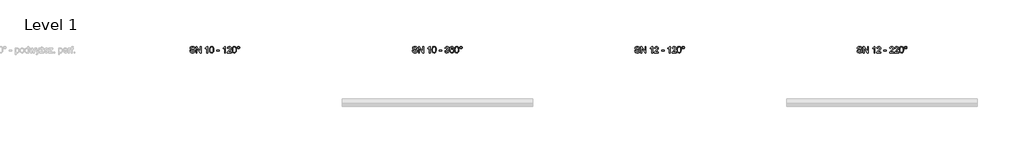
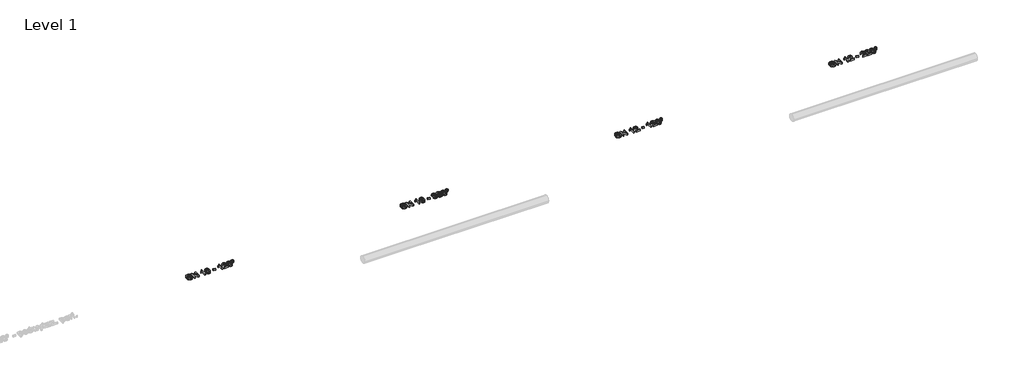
# One storey, part 9 of 10: 4 proxies.
"""IFC4 building model written with IfcOpenShell, lengths in millimetres."""

import ifcopenshell
import ifcopenshell.guid

model = None  # the IFC model being written
_history = None  # IfcOwnerHistory: only IFC2X3 demands one
_inside = {}  # id of a spatial element -> (the spatial element, [elements in it])
_under = {}  # id of a project, library or spatial element -> (it, [spatial elements below it])
_declared = {}  # id of a project -> (the project, [libraries it declares])
_typed = {}  # id of a type object -> (the type object, [elements of that type])
_made_of = {}  # id of a material, layer set ... -> (it, [elements and type objects made of it])


def new_model(schema):
    """Start an empty IFC model of exactly this schema.

    Asked for "IFC4X3", IfcOpenShell would pick the latest addendum, in which some entities
    have other attributes; the version numbers below select the first issue.
    IFC2X3 requires an IfcOwnerHistory on every rooted entity: one is made here for all.
    """
    global model, _history
    if schema == "IFC4X3":
        model = ifcopenshell.file(schema_version=(4, 3, 0, 0))
    else:
        model = ifcopenshell.file(schema=schema)
    _inside.clear()
    _under.clear()
    _declared.clear()
    _typed.clear()
    _made_of.clear()
    _history = None
    if model.schema == "IFC2X3":
        org = make("IfcOrganization", Name="unknown")
        user = make(
            "IfcPersonAndOrganization",
            ThePerson=make("IfcPerson", FamilyName="unknown"),
            TheOrganization=org,
        )
        app = make(
            "IfcApplication",
            ApplicationDeveloper=org,
            Version="unknown",
            ApplicationFullName="unknown",
            ApplicationIdentifier="unknown",
        )
        _history = make(
            "IfcOwnerHistory",
            OwningUser=user,
            OwningApplication=app,
            ChangeAction="ADDED",
            CreationDate=0,
        )
    return model


def make(cls, **values):
    """One entity of the class cls with the attributes given. An attribute that is None is left unset."""
    return model.create_entity(
        cls, **{name: value for name, value in values.items() if value is not None}
    )


def rooted(cls, **values):
    """An entity with a GlobalId (a new one), such as an element, a storey or a relation."""
    return make(cls, GlobalId=ifcopenshell.guid.new(), OwnerHistory=_history, **values)


def si_unit(unit_type, name, prefix=None):
    """IfcSIUnit, for example si_unit("LENGTHUNIT", "METRE", prefix="MILLI")."""
    return make("IfcSIUnit", UnitType=unit_type, Prefix=prefix, Name=name)


def assignment(units):
    """IfcUnitAssignment: the units of a project."""
    return None if units is None else make("IfcUnitAssignment", Units=units)


def point(xyz):
    """IfcCartesianPoint."""
    return None if xyz is None else make("IfcCartesianPoint", Coordinates=xyz)


def direction(xyz):
    """IfcDirection."""
    return None if xyz is None else make("IfcDirection", DirectionRatios=xyz)


def frame(location, z_axis=None, x_axis=None):
    """IfcAxis2Placement3D, a coordinate frame: its origin and axes. An axis left out is left unset."""
    return make(
        "IfcAxis2Placement3D",
        Location=point(location),
        Axis=direction(z_axis),
        RefDirection=direction(x_axis),
    )


def origin():
    """The frame at (0, 0, 0) with its axes left unset."""
    return frame((0.0, 0.0, 0.0))


def origin_with_axes():
    """The frame at (0, 0, 0) with the z axis (0, 0, 1) and the x axis (1, 0, 0) written out."""
    return frame((0.0, 0.0, 0.0), z_axis=(0.0, 0.0, 1.0), x_axis=(1.0, 0.0, 0.0))


def place(relative_to, where):
    """IfcLocalPlacement: puts the frame where relative to a parent placement (None: the world)."""
    return make(
        "IfcLocalPlacement", PlacementRelTo=relative_to, RelativePlacement=where
    )


def context(
    kind, dimensions, precision=None, world=None, true_north=None, identifier=None
):
    """IfcGeometricRepresentationContext, for example the 3D "Model" context."""
    return make(
        "IfcGeometricRepresentationContext",
        ContextIdentifier=identifier,
        ContextType=kind,
        CoordinateSpaceDimension=dimensions,
        Precision=precision,
        WorldCoordinateSystem=world,
        TrueNorth=true_north,
    )


def project(units=None, contexts=None):
    """IfcProject with its units and contexts."""
    return rooted(
        "IfcProject",
        Name="project",
        RepresentationContexts=contexts,
        UnitsInContext=assignment(units),
    )


def spatial(cls, under=None, at=None, **own):
    """A site, building, storey or space (cls), placed at a placement, below another one or the project."""
    s = rooted(cls, ObjectPlacement=at, **own)
    if under is not None:
        _under.setdefault(under.id(), (under, []))[1].append(s)
    return s


def polyline(points):
    """IfcPolyline through the points."""
    return make("IfcPolyline", Points=[point(p) for p in points])


def outline(outer, holes=None, kind="AREA"):
    """IfcArbitraryClosedProfileDef: a profile drawn as a closed curve; with holes, ...WithVoids."""
    if holes is None:
        return make("IfcArbitraryClosedProfileDef", ProfileType=kind, OuterCurve=outer)
    return make(
        "IfcArbitraryProfileDefWithVoids",
        ProfileType=kind,
        OuterCurve=outer,
        InnerCurves=holes,
    )


def extrude(swept, where, along, depth):
    """IfcExtrudedAreaSolid: the profile swept, set in the frame where, extruded along a direction by depth."""
    return make(
        "IfcExtrudedAreaSolid",
        SweptArea=swept,
        Position=where,
        ExtrudedDirection=direction(along),
        Depth=depth,
    )


def shape(context_of_items, identifier, shape_type, items):
    """IfcShapeRepresentation: the items that make up one representation, for example the "Body"."""
    return make(
        "IfcShapeRepresentation",
        ContextOfItems=context_of_items,
        RepresentationIdentifier=identifier,
        RepresentationType=shape_type,
        Items=items,
    )


def made_of(thing, what):
    """Note that an element or type object is made of a material, layer set ...; save() writes the relation."""
    if what is not None:
        _made_of.setdefault(what.id(), (what, []))[1].append(thing)
    return thing


def element(
    cls,
    number,
    at=None,
    inside=None,
    cuts=None,
    type_object=None,
    material=None,
    context=None,
    identifier="Body",
    shape_type=None,
    held_by="IfcProductDefinitionShape",
    body=None,
    shapes=None,
    **own,
):
    """One element of the class cls, such as IfcWall. Its Tag is "e" and its number.

    at: its placement. inside: the storey or other place that contains it. cuts: it is an
    opening in that element (IfcRelVoidsElement). A single representation is given by context,
    identifier, shape_type and body (its items); several are given by shapes. held_by: the class
    of the entity that holds the representations. save() writes the other relations.
    """
    e = rooted(cls, Tag="e%d" % number, ObjectPlacement=at, **own)
    if body is not None:
        shapes = [shape(context, identifier, shape_type, body)]
    if shapes is not None:
        e.Representation = make(held_by, Representations=shapes)
    if inside is not None:
        _inside.setdefault(inside.id(), (inside, []))[1].append(e)
    if cuts is not None:
        rooted(
            "IfcRelVoidsElement", RelatingBuildingElement=cuts, RelatedOpeningElement=e
        )
    if type_object is not None:
        _typed.setdefault(type_object.id(), (type_object, []))[1].append(e)
    return made_of(e, material)


def aggregate(whole, parts):
    """IfcRelAggregates: a whole, such as a stair, and the parts it consists of."""
    return rooted("IfcRelAggregates", RelatingObject=whole, RelatedObjects=parts)


def save(model, path):
    """Write the relations noted so far, then the file.

    IfcRelAggregates (storeys below a building ...), IfcRelContainedInSpatialStructure (elements
    in a storey), IfcRelDefinesByType, IfcRelAssociatesMaterial and IfcRelDeclares: one each for
    every whole, place, type object, material and project.
    """
    for whole, parts in _under.values():
        aggregate(whole, parts)
    for where, things in _inside.values():
        rooted(
            "IfcRelContainedInSpatialStructure",
            RelatedElements=things,
            RelatingStructure=where,
        )
    for kind, things in _typed.values():
        rooted("IfcRelDefinesByType", RelatedObjects=things, RelatingType=kind)
    for what, things in _made_of.values():
        rooted("IfcRelAssociatesMaterial", RelatedObjects=things, RelatingMaterial=what)
    for by, libraries in _declared.values():
        rooted("IfcRelDeclares", RelatingContext=by, RelatedDefinitions=libraries)
    model.write(path)


model = new_model("IFC4")

# Units and contexts
model_context = context("Model", 3, world=origin())
ifc_project = project(units=[si_unit("LENGTHUNIT", "METRE", prefix="MILLI")], contexts=[model_context])

# Site, building, storey
site = spatial("IfcSite", under=ifc_project)
building = spatial("IfcBuilding", under=site)
storey = spatial("IfcBuildingStorey", under=building, Name="Level 1", Elevation=0.0)

# Proxies
placement = place(None, origin())
element("IfcBuildingElementProxy", 1, Name="200mm Arial", ObjectType="200mm Arial", at=placement, inside=storey, context=model_context, shape_type="SweptSolid", body=[
    extrude(outline(polyline([(34180.9483219, 2231.0128426), (34206.0623994, 2231.0128426), (34214.1558033, 2205.8742396), (34222.2859954, 2196.983758), (34233.9233292, 2189.9817374), (34248.1480997, 2185.4383947), (34264.0406019, 2183.9239472), (34290.2828509, 2188.5102094), (34307.2299481, 2201.1162991), (34312.797229, 2217.9652945), (34308.6278997, 2233.6370675), (34302.2758039, 2239.8358791), (34291.5581751, 2245.0414093), (34254.9907048, 2254.6308667), (34215.6273313, 2267.0162272), (34203.1254748, 2275.4652503), (34194.2656501, 2285.7046325), (34188.9865435, 2297.5136446), (34187.2268413, 2310.6715573), (34189.4034764, 2325.3807057), (34195.9333818, 2339.0965728), (34206.6448793, 2350.7216438), (34221.3662904, 2359.1584042), (34239.0368889, 2364.2903581), (34258.5959483, 2366.0010093), (34279.7859513, 2364.2106503), (34298.3272038, 2358.8395732), (34313.5575184, 2349.9981425), (34324.8147075, 2337.796723), (34331.9393554, 2322.9956041), (34334.7720468, 2306.3550752), (34309.6579693, 2306.3550752), (34305.0471816, 2321.3401351), (34295.4331988, 2332.1558658), (34280.4113507, 2338.7041653), (34259.576967, 2340.8869318), (34238.252074, 2338.7286908), (34223.6226333, 2332.2539676), (34215.1613474, 2322.725824), (34212.3409188, 2311.4073212), (34214.3397443, 2301.7565502), (34220.3362208, 2293.9942401), (34234.5119404, 2287.0535332), (34261.3428006, 2279.9656734), (34305.7829456, 2267.3595837), (34320.0996866, 2258.2483729), (34330.0876827, 2247.0034466), (34335.9554006, 2233.7474321), (34337.9113065, 2218.6029566), (34335.661095, 2203.121256), (34328.9104604, 2188.5592603), (34317.9353142, 2176.026747), (34303.0115679, 2166.6334934), (34285.0650579, 2160.7657756), (34265.0216205, 2158.8098696), (34240.4164464, 2160.9190598), (34220.1645426, 2167.2466301), (34204.0329171, 2177.8171061), (34191.788578, 2192.6550132), (34183.9281661, 2210.7302819), (34180.9483219, 2231.0128426)])), origin_with_axes(), (0.0, 0.0, 1.0), 50.0),
    extrude(outline(polyline([(34375.5824228, 2161.9491293), (34375.5824228, 2362.8617496), (34402.4623339, 2362.8617496), (34507.4313299, 2203.6914731), (34507.4313299, 2362.8617496), (34532.5454074, 2362.8617496), (34532.5454074, 2161.9491293), (34505.6654963, 2161.9491293), (34400.6965003, 2321.1684569), (34400.6965003, 2161.9491293), (34375.5824228, 2161.9491293)])), origin_with_axes(), (0.0, 0.0, 1.0), 50.0),
    extrude(outline(polyline([(34739.7365471, 2161.9491293), (34714.6224696, 2161.9491293), (34714.6224696, 2318.5197065), (34690.8327672, 2301.5726092), (34664.3943145, 2288.8929431), (34664.3943145, 2312.6335946), (34701.2070395, 2336.1289913), (34714.6776519, 2349.7038369), (34723.5497393, 2362.8617496), (34739.7365471, 2362.8617496), (34739.7365471, 2161.9491293)])), origin_with_axes(), (0.0, 0.0, 1.0), 50.0),
    extrude(outline(polyline([(34799.3824813, 2260.7867587), (34801.2280226, 2292.9457765), (34806.7646466, 2318.5932829), (34815.937171, 2338.1216855), (34828.6904135, 2351.9233917), (34845.1163446, 2360.1271601), (34865.3069348, 2362.8617496), (34880.7825041, 2361.2430689), (34894.6393925, 2356.3870265), (34906.2276754, 2348.483695), (34914.8974277, 2337.7231466), (34926.6696516, 2307.9982814), (34931.2313883, 2260.7867587), (34929.4042411, 2228.811682), (34923.9227994, 2203.2254892), (34914.8054572, 2183.6786925), (34902.0706088, 2169.821804), (34885.6078896, 2161.5628532), (34865.3069348, 2158.8098696), (34839.2118386, 2163.5923356), (34819.3952618, 2177.9397334), (34810.6396703, 2193.0688805), (34804.3856764, 2211.919767), (34799.3824813, 2260.7867587)]), holes=[polyline([(34824.4965588, 2260.8358096), (34827.4396148, 2221.3314147), (34836.2687826, 2198.4675487), (34849.4144326, 2187.5598476), (34865.3069348, 2183.9239472), (34881.199437, 2187.5721103), (34894.3450869, 2198.5165997), (34903.1742548, 2221.3927284), (34906.1173108, 2260.8358096), (34903.2723567, 2299.4511564), (34894.7374944, 2322.492832), (34881.6163699, 2333.9339621), (34865.0126292, 2337.7476721), (34849.2918053, 2334.3876832), (34836.6611901, 2324.3077165), (34827.5377166, 2299.8313011), (34824.4965588, 2260.8358096)])]), origin_with_axes(), (0.0, 0.0, 1.0), 50.0),
    extrude(outline(polyline([(35025.4091791, 2221.5950635), (35025.4091791, 2246.709141), (35103.8906714, 2246.709141), (35103.8906714, 2221.5950635), (35025.4091791, 2221.5950635)])), origin_with_axes(), (0.0, 0.0, 1.0), 50.0),
    extrude(outline(polyline([(35298.5247723, 2161.9491293), (35273.4106948, 2161.9491293), (35273.4106948, 2318.5197065), (35249.6209924, 2301.5726092), (35223.1825397, 2288.8929431), (35223.1825397, 2312.6335946), (35259.9952647, 2336.1289913), (35273.4658771, 2349.7038369), (35282.3379645, 2362.8617496), (35298.5247723, 2362.8617496), (35298.5247723, 2161.9491293)])), origin_with_axes(), (0.0, 0.0, 1.0), 50.0),
    extrude(outline(polyline([(35486.8803538, 2187.0632069), (35486.8803538, 2161.9491293), (35355.0314468, 2161.9491293), (35357.7292481, 2179.2641086), (35372.9840881, 2205.9232905), (35404.425736, 2235.0350191), (35447.7867605, 2276.8754646), (35455.9169526, 2291.2964388), (35458.6270166, 2305.3250056), (35456.0702367, 2317.9004385), (35448.3998971, 2328.3544185), (35436.6092792, 2335.3993587), (35421.6916643, 2337.7476721), (35406.0260227, 2335.454541), (35393.85526, 2328.5751477), (35386.0009794, 2317.6490524), (35383.284784, 2303.2158155), (35358.1707065, 2306.3550752), (35364.2591535, 2330.6475496), (35377.4231975, 2348.3917245), (35396.9761256, 2359.2442434), (35422.2312246, 2362.8617496), (35447.6702645, 2358.8395732), (35467.1864044, 2346.7730437), (35479.6024217, 2328.746826), (35483.7410941, 2306.8455845), (35479.2774593, 2283.0313567), (35464.4395521, 2258.4077885), (35428.460693, 2223.9985592), (35399.5696937, 2199.8409748), (35388.2389282, 2187.0632069), (35486.8803538, 2187.0632069)])), origin_with_axes(), (0.0, 0.0, 1.0), 50.0),
    extrude(outline(polyline([(35511.9944314, 2260.7867587), (35513.8399727, 2292.9457765), (35519.3765967, 2318.5932829), (35528.5491212, 2338.1216855), (35541.3023637, 2351.9233917), (35557.7282947, 2360.1271601), (35577.9188849, 2362.8617496), (35593.3944542, 2361.2430689), (35607.2513427, 2356.3870265), (35618.8396255, 2348.483695), (35627.5093779, 2337.7231466), (35639.2816017, 2307.9982814), (35643.8433384, 2260.7867587), (35642.0161912, 2228.811682), (35636.5347495, 2203.2254892), (35627.4174074, 2183.6786925), (35614.682559, 2169.821804), (35598.2198397, 2161.5628532), (35577.9188849, 2158.8098696), (35551.8237887, 2163.5923356), (35532.0072119, 2177.9397334), (35523.2516204, 2193.0688805), (35516.9976265, 2211.919767), (35511.9944314, 2260.7867587)]), holes=[polyline([(35537.1085089, 2260.8358096), (35540.0515649, 2221.3314147), (35548.8807328, 2198.4675487), (35562.0263827, 2187.5598476), (35577.9188849, 2183.9239472), (35593.8113871, 2187.5721103), (35606.9570371, 2198.5165997), (35615.7862049, 2221.3927284), (35618.7292609, 2260.8358096), (35615.8843068, 2299.4511564), (35607.3494445, 2322.492832), (35594.22832, 2333.9339621), (35577.6245793, 2337.7476721), (35561.9037554, 2334.3876832), (35549.2731402, 2324.3077165), (35540.1496667, 2299.8313011), (35537.1085089, 2260.8358096)])]), origin_with_axes(), (0.0, 0.0, 1.0), 50.0),
    extrude(outline(polyline([(35672.0966757, 2328.378944), (35674.861922, 2342.8612318), (35683.157661, 2355.0136004), (35695.3284237, 2363.2541571), (35709.7187411, 2366.0010093), (35724.2746053, 2363.2541571), (35736.4514994, 2355.0136004), (35744.6920561, 2342.8612318), (35747.4389083, 2328.378944), (35744.673662, 2313.9150502), (35736.377923, 2301.719762), (35724.1826348, 2293.4240231), (35709.7187411, 2290.6587767), (35695.3284237, 2293.405629), (35683.157661, 2301.6461856), (35674.861922, 2313.8230797), (35672.0966757, 2328.378944)]), holes=[polyline([(35687.7929741, 2328.329893), (35689.4055236, 2319.8808699), (35694.2431718, 2312.7807474), (35701.3616884, 2307.9614932), (35709.8168429, 2306.3550752), (35718.198421, 2307.9614932), (35725.2924122, 2312.7807474), (35730.1300604, 2319.8808699), (35731.7426098, 2328.329893), (35730.1300604, 2336.7789162), (35725.2924122, 2343.8790387), (35718.198421, 2348.6982928), (35709.8168429, 2350.3047109), (35701.3616884, 2348.6982928), (35694.2431718, 2343.8790387), (35689.4055236, 2336.7789162), (35687.7929741, 2328.329893)])]), origin_with_axes(), (0.0, 0.0, 1.0), 50.0),
])
element("IfcBuildingElementProxy", 2, Name="200mm Arial", ObjectType="200mm Arial", at=placement, inside=storey, context=model_context, shape_type="SweptSolid", body=[
    extrude(outline(polyline([(41180.9483219, 2231.0128426), (41206.0623994, 2231.0128426), (41214.1558033, 2205.8742396), (41222.2859954, 2196.983758), (41233.9233292, 2189.9817374), (41248.1480997, 2185.4383947), (41264.0406019, 2183.9239472), (41290.2828509, 2188.5102094), (41307.2299481, 2201.1162991), (41312.797229, 2217.9652945), (41308.6278997, 2233.6370675), (41302.2758039, 2239.8358791), (41291.5581751, 2245.0414093), (41254.9907048, 2254.6308667), (41215.6273313, 2267.0162272), (41203.1254748, 2275.4652503), (41194.2656501, 2285.7046325), (41188.9865435, 2297.5136446), (41187.2268413, 2310.6715573), (41189.4034764, 2325.3807057), (41195.9333818, 2339.0965728), (41206.6448793, 2350.7216438), (41221.3662904, 2359.1584042), (41239.0368889, 2364.2903581), (41258.5959483, 2366.0010093), (41279.7859513, 2364.2106503), (41298.3272038, 2358.8395732), (41313.5575184, 2349.9981425), (41324.8147075, 2337.796723), (41331.9393554, 2322.9956041), (41334.7720468, 2306.3550752), (41309.6579693, 2306.3550752), (41305.0471816, 2321.3401351), (41295.4331988, 2332.1558658), (41280.4113507, 2338.7041653), (41259.576967, 2340.8869318), (41238.252074, 2338.7286908), (41223.6226333, 2332.2539676), (41215.1613474, 2322.725824), (41212.3409188, 2311.4073212), (41214.3397443, 2301.7565502), (41220.3362208, 2293.9942401), (41234.5119404, 2287.0535332), (41261.3428006, 2279.9656734), (41305.7829456, 2267.3595837), (41320.0996866, 2258.2483729), (41330.0876827, 2247.0034466), (41335.9554006, 2233.7474321), (41337.9113065, 2218.6029566), (41335.661095, 2203.121256), (41328.9104604, 2188.5592603), (41317.9353142, 2176.026747), (41303.0115679, 2166.6334934), (41285.0650579, 2160.7657756), (41265.0216205, 2158.8098696), (41240.4164464, 2160.9190598), (41220.1645426, 2167.2466301), (41204.0329171, 2177.8171061), (41191.788578, 2192.6550132), (41183.9281661, 2210.7302819), (41180.9483219, 2231.0128426)])), origin_with_axes(), (0.0, 0.0, 1.0), 50.0),
    extrude(outline(polyline([(41375.5824228, 2161.9491293), (41375.5824228, 2362.8617496), (41402.4623339, 2362.8617496), (41507.4313299, 2203.6914731), (41507.4313299, 2362.8617496), (41532.5454074, 2362.8617496), (41532.5454074, 2161.9491293), (41505.6654963, 2161.9491293), (41400.6965003, 2321.1684569), (41400.6965003, 2161.9491293), (41375.5824228, 2161.9491293)])), origin_with_axes(), (0.0, 0.0, 1.0), 50.0),
    extrude(outline(polyline([(41739.7365471, 2161.9491293), (41714.6224696, 2161.9491293), (41714.6224696, 2318.5197065), (41690.8327672, 2301.5726092), (41664.3943145, 2288.8929431), (41664.3943145, 2312.6335946), (41701.2070395, 2336.1289913), (41714.6776519, 2349.7038369), (41723.5497393, 2362.8617496), (41739.7365471, 2362.8617496), (41739.7365471, 2161.9491293)])), origin_with_axes(), (0.0, 0.0, 1.0), 50.0),
    extrude(outline(polyline([(41799.3824813, 2260.7867587), (41801.2280226, 2292.9457765), (41806.7646466, 2318.5932829), (41815.937171, 2338.1216855), (41828.6904135, 2351.9233917), (41845.1163446, 2360.1271601), (41865.3069348, 2362.8617496), (41880.7825041, 2361.2430689), (41894.6393925, 2356.3870265), (41906.2276754, 2348.483695), (41914.8974277, 2337.7231466), (41926.6696516, 2307.9982814), (41931.2313883, 2260.7867587), (41929.4042411, 2228.811682), (41923.9227994, 2203.2254892), (41914.8054572, 2183.6786925), (41902.0706088, 2169.821804), (41885.6078896, 2161.5628532), (41865.3069348, 2158.8098696), (41839.2118386, 2163.5923356), (41819.3952618, 2177.9397334), (41810.6396703, 2193.0688805), (41804.3856764, 2211.919767), (41799.3824813, 2260.7867587)]), holes=[polyline([(41824.4965588, 2260.8358096), (41827.4396148, 2221.3314147), (41836.2687826, 2198.4675487), (41849.4144326, 2187.5598476), (41865.3069348, 2183.9239472), (41881.199437, 2187.5721103), (41894.3450869, 2198.5165997), (41903.1742548, 2221.3927284), (41906.1173108, 2260.8358096), (41903.2723567, 2299.4511564), (41894.7374944, 2322.492832), (41881.6163699, 2333.9339621), (41865.0126292, 2337.7476721), (41849.2918053, 2334.3876832), (41836.6611901, 2324.3077165), (41827.5377166, 2299.8313011), (41824.4965588, 2260.8358096)])]), origin_with_axes(), (0.0, 0.0, 1.0), 50.0),
    extrude(outline(polyline([(42025.4091791, 2221.5950635), (42025.4091791, 2246.709141), (42103.8906714, 2246.709141), (42103.8906714, 2221.5950635), (42025.4091791, 2221.5950635)])), origin_with_axes(), (0.0, 0.0, 1.0), 50.0),
    extrude(outline(polyline([(42204.3469815, 2215.3165441), (42229.4610591, 2218.4558038), (42235.0835222, 2202.6736662), (42243.3179476, 2192.0173511), (42254.5690053, 2185.9472982), (42269.2413655, 2183.9239472), (42286.4582429, 2186.7075876), (42299.7510456, 2195.0585089), (42308.2491197, 2207.5174458), (42311.0818111, 2222.6251331), (42308.2736452, 2236.9663995), (42299.8491475, 2248.5976019), (42287.095905, 2256.3047297), (42271.3015047, 2258.8737723), (42253.6922198, 2256.1269201), (42256.488123, 2281.2409976), (42260.5102995, 2280.946692), (42275.5566731, 2282.7493138), (42289.0088914, 2288.1571792), (42298.5002468, 2297.3051781), (42301.664032, 2310.3282007), (42299.3709009, 2321.1745882), (42292.4915076, 2329.9730993), (42281.994608, 2335.8040289), (42268.848958, 2337.7476721), (42255.6787826, 2335.7856348), (42244.9121029, 2329.8995229), (42237.0516909, 2320.0893363), (42232.6003188, 2306.3550752), (42207.4862412, 2309.4943349), (42214.8806693, 2332.0455012), (42228.038582, 2348.8822338), (42246.0402743, 2359.3668707), (42267.9660412, 2362.8617496), (42283.7543102, 2361.1388356), (42298.2549922, 2355.9700936), (42310.4809372, 2347.815376), (42319.4449951, 2337.1345354), (42324.9448309, 2324.8288827), (42326.7781095, 2311.7997287), (42325.0368014, 2299.6596229), (42319.8128771, 2288.6476885), (42311.1799129, 2279.2666976), (42299.2114854, 2272.0194223), (42314.9323093, 2265.6673265), (42326.5819058, 2254.8515959), (42333.7923929, 2240.1608415), (42336.1958886, 2222.1836747), (42331.3888972, 2197.7072593), (42316.967923, 2177.2530203), (42295.2015716, 2163.4206573), (42268.3584487, 2158.8098696), (42244.078237, 2162.746207), (42224.3107111, 2174.555219), (42210.5641873, 2192.618225), (42204.3469815, 2215.3165441)])), origin_with_axes(), (0.0, 0.0, 1.0), 50.0),
    extrude(outline(polyline([(42486.8803538, 2309.4943349), (42461.7662763, 2306.3550752), (42452.2503954, 2327.2998234), (42440.8583162, 2335.1357099), (42427.0872669, 2337.7476721), (42404.425736, 2331.6653564), (42394.9895628, 2322.057505), (42387.282435, 2308.8321473), (42382.0769048, 2290.1253478), (42380.1455243, 2264.0731712), (42390.2193596, 2275.8270009), (42402.2920204, 2284.1104772), (42415.6890564, 2289.0217018), (42429.7360173, 2290.6587767), (42452.9371084, 2286.1828791), (42472.4103287, 2272.7551863), (42485.6172923, 2252.2396337), (42490.0196135, 2226.5001568), (42487.9472116, 2208.5168586), (42481.7300059, 2191.8456728), (42471.8830312, 2177.7067415), (42458.9213222, 2167.3202065), (42443.4334902, 2160.9374539), (42426.0081464, 2158.8098696), (42397.5156858, 2164.4507269), (42374.8234981, 2181.3732987), (42366.1644756, 2194.4821604), (42359.9794596, 2211.2453167), (42355.0314468, 2255.7345126), (42360.5251512, 2305.7542013), (42367.3922818, 2324.8319484), (42377.0062646, 2339.9549641), (42387.4265221, 2349.9766828), (42399.50838, 2357.1350532), (42428.6568967, 2362.8617496), (42450.6930282, 2359.3178198), (42468.3391013, 2348.6860301), (42480.6999363, 2331.8002465), (42486.8803538, 2309.4943349)]), holes=[polyline([(42380.1455243, 2226.8925642), (42385.9580598, 2205.1384756), (42401.4091036, 2189.3440752), (42424.0461091, 2183.9239472), (42440.6191929, 2186.7321131), (42453.6483469, 2195.1566108), (42462.0912387, 2208.4003626), (42464.905536, 2225.6662909), (42462.1280269, 2242.2393748), (42453.7954997, 2254.8761213), (42440.5456165, 2262.8775547), (42423.0160395, 2265.5446992), (42406.4674811, 2262.8775547), (42392.6289867, 2254.8761213), (42383.2663899, 2242.5459431), (42380.1455243, 2226.8925642)])]), origin_with_axes(), (0.0, 0.0, 1.0), 50.0),
    extrude(outline(polyline([(42511.9944314, 2260.7867587), (42513.8399727, 2292.9457765), (42519.3765967, 2318.5932829), (42528.5491212, 2338.1216855), (42541.3023637, 2351.9233917), (42557.7282947, 2360.1271601), (42577.9188849, 2362.8617496), (42593.3944542, 2361.2430689), (42607.2513427, 2356.3870265), (42618.8396255, 2348.483695), (42627.5093779, 2337.7231466), (42639.2816017, 2307.9982814), (42643.8433384, 2260.7867587), (42642.0161912, 2228.811682), (42636.5347495, 2203.2254892), (42627.4174074, 2183.6786925), (42614.682559, 2169.821804), (42598.2198397, 2161.5628532), (42577.9188849, 2158.8098696), (42551.8237887, 2163.5923356), (42532.0072119, 2177.9397334), (42523.2516204, 2193.0688805), (42516.9976265, 2211.919767), (42511.9944314, 2260.7867587)]), holes=[polyline([(42537.1085089, 2260.8358096), (42540.0515649, 2221.3314147), (42548.8807328, 2198.4675487), (42562.0263827, 2187.5598476), (42577.9188849, 2183.9239472), (42593.8113871, 2187.5721103), (42606.9570371, 2198.5165997), (42615.7862049, 2221.3927284), (42618.7292609, 2260.8358096), (42615.8843068, 2299.4511564), (42607.3494445, 2322.492832), (42594.22832, 2333.9339621), (42577.6245793, 2337.7476721), (42561.9037554, 2334.3876832), (42549.2731402, 2324.3077165), (42540.1496667, 2299.8313011), (42537.1085089, 2260.8358096)])]), origin_with_axes(), (0.0, 0.0, 1.0), 50.0),
    extrude(outline(polyline([(42672.0966757, 2328.378944), (42674.861922, 2342.8612318), (42683.157661, 2355.0136004), (42695.3284237, 2363.2541571), (42709.7187411, 2366.0010093), (42724.2746053, 2363.2541571), (42736.4514994, 2355.0136004), (42744.6920561, 2342.8612318), (42747.4389083, 2328.378944), (42744.673662, 2313.9150502), (42736.377923, 2301.719762), (42724.1826348, 2293.4240231), (42709.7187411, 2290.6587767), (42695.3284237, 2293.405629), (42683.157661, 2301.6461856), (42674.861922, 2313.8230797), (42672.0966757, 2328.378944)]), holes=[polyline([(42687.7929741, 2328.329893), (42689.4055236, 2319.8808699), (42694.2431718, 2312.7807474), (42701.3616884, 2307.9614932), (42709.8168429, 2306.3550752), (42718.198421, 2307.9614932), (42725.2924122, 2312.7807474), (42730.1300604, 2319.8808699), (42731.7426098, 2328.329893), (42730.1300604, 2336.7789162), (42725.2924122, 2343.8790387), (42718.198421, 2348.6982928), (42709.8168429, 2350.3047109), (42701.3616884, 2348.6982928), (42694.2431718, 2343.8790387), (42689.4055236, 2336.7789162), (42687.7929741, 2328.329893)])]), origin_with_axes(), (0.0, 0.0, 1.0), 50.0),
])
element("IfcBuildingElementProxy", 3, Name="200mm Arial", ObjectType="200mm Arial", at=placement, inside=storey, context=model_context, shape_type="SweptSolid", body=[
    extrude(outline(polyline([(48180.9483219, 2231.0128426), (48206.0623994, 2231.0128426), (48214.1558033, 2205.8742396), (48222.2859954, 2196.983758), (48233.9233292, 2189.9817374), (48248.1480997, 2185.4383947), (48264.0406019, 2183.9239472), (48290.2828509, 2188.5102094), (48307.2299481, 2201.1162991), (48312.797229, 2217.9652945), (48308.6278997, 2233.6370675), (48302.2758039, 2239.8358791), (48291.5581751, 2245.0414093), (48254.9907048, 2254.6308667), (48215.6273313, 2267.0162272), (48203.1254748, 2275.4652503), (48194.2656501, 2285.7046325), (48188.9865435, 2297.5136446), (48187.2268413, 2310.6715573), (48189.4034764, 2325.3807057), (48195.9333818, 2339.0965728), (48206.6448793, 2350.7216438), (48221.3662904, 2359.1584042), (48239.0368889, 2364.2903581), (48258.5959483, 2366.0010093), (48279.7859513, 2364.2106503), (48298.3272038, 2358.8395732), (48313.5575184, 2349.9981425), (48324.8147075, 2337.796723), (48331.9393554, 2322.9956041), (48334.7720468, 2306.3550752), (48309.6579693, 2306.3550752), (48305.0471816, 2321.3401351), (48295.4331988, 2332.1558658), (48280.4113507, 2338.7041653), (48259.576967, 2340.8869318), (48238.252074, 2338.7286908), (48223.6226333, 2332.2539676), (48215.1613474, 2322.725824), (48212.3409188, 2311.4073212), (48214.3397443, 2301.7565502), (48220.3362208, 2293.9942401), (48234.5119404, 2287.0535332), (48261.3428006, 2279.9656734), (48305.7829456, 2267.3595837), (48320.0996866, 2258.2483729), (48330.0876827, 2247.0034466), (48335.9554006, 2233.7474321), (48337.9113065, 2218.6029566), (48335.661095, 2203.121256), (48328.9104604, 2188.5592603), (48317.9353142, 2176.026747), (48303.0115679, 2166.6334934), (48285.0650579, 2160.7657756), (48265.0216205, 2158.8098696), (48240.4164464, 2160.9190598), (48220.1645426, 2167.2466301), (48204.0329171, 2177.8171061), (48191.788578, 2192.6550132), (48183.9281661, 2210.7302819), (48180.9483219, 2231.0128426)])), origin_with_axes(), (0.0, 0.0, 1.0), 50.0),
    extrude(outline(polyline([(48375.5824228, 2161.9491293), (48375.5824228, 2362.8617496), (48402.4623339, 2362.8617496), (48507.4313299, 2203.6914731), (48507.4313299, 2362.8617496), (48532.5454074, 2362.8617496), (48532.5454074, 2161.9491293), (48505.6654963, 2161.9491293), (48400.6965003, 2321.1684569), (48400.6965003, 2161.9491293), (48375.5824228, 2161.9491293)])), origin_with_axes(), (0.0, 0.0, 1.0), 50.0),
    extrude(outline(polyline([(48739.7365471, 2161.9491293), (48714.6224696, 2161.9491293), (48714.6224696, 2318.5197065), (48690.8327672, 2301.5726092), (48664.3943145, 2288.8929431), (48664.3943145, 2312.6335946), (48701.2070395, 2336.1289913), (48714.6776519, 2349.7038369), (48723.5497393, 2362.8617496), (48739.7365471, 2362.8617496), (48739.7365471, 2161.9491293)])), origin_with_axes(), (0.0, 0.0, 1.0), 50.0),
    extrude(outline(polyline([(48928.0921286, 2187.0632069), (48928.0921286, 2161.9491293), (48796.2432216, 2161.9491293), (48798.9410229, 2179.2641086), (48814.1958629, 2205.9232905), (48845.6375108, 2235.0350191), (48888.9985353, 2276.8754646), (48897.1287274, 2291.2964388), (48899.8387914, 2305.3250056), (48897.2820115, 2317.9004385), (48889.6116719, 2328.3544185), (48877.821054, 2335.3993587), (48862.9034391, 2337.7476721), (48847.2377975, 2335.454541), (48835.0670348, 2328.5751477), (48827.2127542, 2317.6490524), (48824.4965588, 2303.2158155), (48799.3824813, 2306.3550752), (48805.4709283, 2330.6475496), (48818.6349723, 2348.3917245), (48838.1879004, 2359.2442434), (48863.4429993, 2362.8617496), (48888.8820393, 2358.8395732), (48908.3981792, 2346.7730437), (48920.8141965, 2328.746826), (48924.9528689, 2306.8455845), (48920.4892341, 2283.0313567), (48905.6513269, 2258.4077885), (48869.6724678, 2223.9985592), (48840.7814684, 2199.8409748), (48829.450703, 2187.0632069), (48928.0921286, 2187.0632069)])), origin_with_axes(), (0.0, 0.0, 1.0), 50.0),
    extrude(outline(polyline([(49025.4091791, 2221.5950635), (49025.4091791, 2246.709141), (49103.8906714, 2246.709141), (49103.8906714, 2221.5950635), (49025.4091791, 2221.5950635)])), origin_with_axes(), (0.0, 0.0, 1.0), 50.0),
    extrude(outline(polyline([(49298.5247723, 2161.9491293), (49273.4106948, 2161.9491293), (49273.4106948, 2318.5197065), (49249.6209924, 2301.5726092), (49223.1825397, 2288.8929431), (49223.1825397, 2312.6335946), (49259.9952647, 2336.1289913), (49273.4658771, 2349.7038369), (49282.3379645, 2362.8617496), (49298.5247723, 2362.8617496), (49298.5247723, 2161.9491293)])), origin_with_axes(), (0.0, 0.0, 1.0), 50.0),
    extrude(outline(polyline([(49486.8803538, 2187.0632069), (49486.8803538, 2161.9491293), (49355.0314468, 2161.9491293), (49357.7292481, 2179.2641086), (49372.9840881, 2205.9232905), (49404.425736, 2235.0350191), (49447.7867605, 2276.8754646), (49455.9169526, 2291.2964388), (49458.6270166, 2305.3250056), (49456.0702367, 2317.9004385), (49448.3998971, 2328.3544185), (49436.6092792, 2335.3993587), (49421.6916643, 2337.7476721), (49406.0260227, 2335.454541), (49393.85526, 2328.5751477), (49386.0009794, 2317.6490524), (49383.284784, 2303.2158155), (49358.1707065, 2306.3550752), (49364.2591535, 2330.6475496), (49377.4231975, 2348.3917245), (49396.9761256, 2359.2442434), (49422.2312246, 2362.8617496), (49447.6702645, 2358.8395732), (49467.1864044, 2346.7730437), (49479.6024217, 2328.746826), (49483.7410941, 2306.8455845), (49479.2774593, 2283.0313567), (49464.4395521, 2258.4077885), (49428.460693, 2223.9985592), (49399.5696937, 2199.8409748), (49388.2389282, 2187.0632069), (49486.8803538, 2187.0632069)])), origin_with_axes(), (0.0, 0.0, 1.0), 50.0),
    extrude(outline(polyline([(49511.9944314, 2260.7867587), (49513.8399727, 2292.9457765), (49519.3765967, 2318.5932829), (49528.5491212, 2338.1216855), (49541.3023637, 2351.9233917), (49557.7282947, 2360.1271601), (49577.9188849, 2362.8617496), (49593.3944542, 2361.2430689), (49607.2513427, 2356.3870265), (49618.8396255, 2348.483695), (49627.5093779, 2337.7231466), (49639.2816017, 2307.9982814), (49643.8433384, 2260.7867587), (49642.0161912, 2228.811682), (49636.5347495, 2203.2254892), (49627.4174074, 2183.6786925), (49614.682559, 2169.821804), (49598.2198397, 2161.5628532), (49577.9188849, 2158.8098696), (49551.8237887, 2163.5923356), (49532.0072119, 2177.9397334), (49523.2516204, 2193.0688805), (49516.9976265, 2211.919767), (49511.9944314, 2260.7867587)]), holes=[polyline([(49537.1085089, 2260.8358096), (49540.0515649, 2221.3314147), (49548.8807328, 2198.4675487), (49562.0263827, 2187.5598476), (49577.9188849, 2183.9239472), (49593.8113871, 2187.5721103), (49606.9570371, 2198.5165997), (49615.7862049, 2221.3927284), (49618.7292609, 2260.8358096), (49615.8843068, 2299.4511564), (49607.3494445, 2322.492832), (49594.22832, 2333.9339621), (49577.6245793, 2337.7476721), (49561.9037554, 2334.3876832), (49549.2731402, 2324.3077165), (49540.1496667, 2299.8313011), (49537.1085089, 2260.8358096)])]), origin_with_axes(), (0.0, 0.0, 1.0), 50.0),
    extrude(outline(polyline([(49672.0966757, 2328.378944), (49674.861922, 2342.8612318), (49683.157661, 2355.0136004), (49695.3284237, 2363.2541571), (49709.7187411, 2366.0010093), (49724.2746053, 2363.2541571), (49736.4514994, 2355.0136004), (49744.6920561, 2342.8612318), (49747.4389083, 2328.378944), (49744.673662, 2313.9150502), (49736.377923, 2301.719762), (49724.1826348, 2293.4240231), (49709.7187411, 2290.6587767), (49695.3284237, 2293.405629), (49683.157661, 2301.6461856), (49674.861922, 2313.8230797), (49672.0966757, 2328.378944)]), holes=[polyline([(49687.7929741, 2328.329893), (49689.4055236, 2319.8808699), (49694.2431718, 2312.7807474), (49701.3616884, 2307.9614932), (49709.8168429, 2306.3550752), (49718.198421, 2307.9614932), (49725.2924122, 2312.7807474), (49730.1300604, 2319.8808699), (49731.7426098, 2328.329893), (49730.1300604, 2336.7789162), (49725.2924122, 2343.8790387), (49718.198421, 2348.6982928), (49709.8168429, 2350.3047109), (49701.3616884, 2348.6982928), (49694.2431718, 2343.8790387), (49689.4055236, 2336.7789162), (49687.7929741, 2328.329893)])]), origin_with_axes(), (0.0, 0.0, 1.0), 50.0),
])
element("IfcBuildingElementProxy", 4, Name="200mm Arial", ObjectType="200mm Arial", at=placement, inside=storey, context=model_context, shape_type="SweptSolid", body=[
    extrude(outline(polyline([(55180.9483219, 2231.0128426), (55206.0623994, 2231.0128426), (55214.1558033, 2205.8742396), (55222.2859954, 2196.983758), (55233.9233292, 2189.9817374), (55248.1480997, 2185.4383947), (55264.0406019, 2183.9239472), (55290.2828509, 2188.5102094), (55307.2299481, 2201.1162991), (55312.797229, 2217.9652945), (55308.6278997, 2233.6370675), (55302.2758039, 2239.8358791), (55291.5581751, 2245.0414093), (55254.9907048, 2254.6308667), (55215.6273313, 2267.0162272), (55203.1254748, 2275.4652503), (55194.2656501, 2285.7046325), (55188.9865435, 2297.5136446), (55187.2268413, 2310.6715573), (55189.4034764, 2325.3807057), (55195.9333818, 2339.0965728), (55206.6448793, 2350.7216438), (55221.3662904, 2359.1584042), (55239.0368889, 2364.2903581), (55258.5959483, 2366.0010093), (55279.7859513, 2364.2106503), (55298.3272038, 2358.8395732), (55313.5575184, 2349.9981425), (55324.8147075, 2337.796723), (55331.9393554, 2322.9956041), (55334.7720468, 2306.3550752), (55309.6579693, 2306.3550752), (55305.0471816, 2321.3401351), (55295.4331988, 2332.1558658), (55280.4113507, 2338.7041653), (55259.576967, 2340.8869318), (55238.252074, 2338.7286908), (55223.6226333, 2332.2539676), (55215.1613474, 2322.725824), (55212.3409188, 2311.4073212), (55214.3397443, 2301.7565502), (55220.3362208, 2293.9942401), (55234.5119404, 2287.0535332), (55261.3428006, 2279.9656734), (55305.7829456, 2267.3595837), (55320.0996866, 2258.2483729), (55330.0876827, 2247.0034466), (55335.9554006, 2233.7474321), (55337.9113065, 2218.6029566), (55335.661095, 2203.121256), (55328.9104604, 2188.5592603), (55317.9353142, 2176.026747), (55303.0115679, 2166.6334934), (55285.0650579, 2160.7657756), (55265.0216205, 2158.8098696), (55240.4164464, 2160.9190598), (55220.1645426, 2167.2466301), (55204.0329171, 2177.8171061), (55191.788578, 2192.6550132), (55183.9281661, 2210.7302819), (55180.9483219, 2231.0128426)])), origin_with_axes(), (0.0, 0.0, 1.0), 50.0),
    extrude(outline(polyline([(55375.5824228, 2161.9491293), (55375.5824228, 2362.8617496), (55402.4623339, 2362.8617496), (55507.4313299, 2203.6914731), (55507.4313299, 2362.8617496), (55532.5454074, 2362.8617496), (55532.5454074, 2161.9491293), (55505.6654963, 2161.9491293), (55400.6965003, 2321.1684569), (55400.6965003, 2161.9491293), (55375.5824228, 2161.9491293)])), origin_with_axes(), (0.0, 0.0, 1.0), 50.0),
    extrude(outline(polyline([(55739.7365471, 2161.9491293), (55714.6224696, 2161.9491293), (55714.6224696, 2318.5197065), (55690.8327672, 2301.5726092), (55664.3943145, 2288.8929431), (55664.3943145, 2312.6335946), (55701.2070395, 2336.1289913), (55714.6776519, 2349.7038369), (55723.5497393, 2362.8617496), (55739.7365471, 2362.8617496), (55739.7365471, 2161.9491293)])), origin_with_axes(), (0.0, 0.0, 1.0), 50.0),
    extrude(outline(polyline([(55928.0921286, 2187.0632069), (55928.0921286, 2161.9491293), (55796.2432216, 2161.9491293), (55798.9410229, 2179.2641086), (55814.1958629, 2205.9232905), (55845.6375108, 2235.0350191), (55888.9985353, 2276.8754646), (55897.1287274, 2291.2964388), (55899.8387914, 2305.3250056), (55897.2820115, 2317.9004385), (55889.6116719, 2328.3544185), (55877.821054, 2335.3993587), (55862.9034391, 2337.7476721), (55847.2377975, 2335.454541), (55835.0670348, 2328.5751477), (55827.2127542, 2317.6490524), (55824.4965588, 2303.2158155), (55799.3824813, 2306.3550752), (55805.4709283, 2330.6475496), (55818.6349723, 2348.3917245), (55838.1879004, 2359.2442434), (55863.4429993, 2362.8617496), (55888.8820393, 2358.8395732), (55908.3981792, 2346.7730437), (55920.8141965, 2328.746826), (55924.9528689, 2306.8455845), (55920.4892341, 2283.0313567), (55905.6513269, 2258.4077885), (55869.6724678, 2223.9985592), (55840.7814684, 2199.8409748), (55829.450703, 2187.0632069), (55928.0921286, 2187.0632069)])), origin_with_axes(), (0.0, 0.0, 1.0), 50.0),
    extrude(outline(polyline([(56025.4091791, 2221.5950635), (56025.4091791, 2246.709141), (56103.8906714, 2246.709141), (56103.8906714, 2221.5950635), (56025.4091791, 2221.5950635)])), origin_with_axes(), (0.0, 0.0, 1.0), 50.0),
    extrude(outline(polyline([(56333.0566289, 2187.0632069), (56333.0566289, 2161.9491293), (56201.2077219, 2161.9491293), (56203.9055231, 2179.2641086), (56219.1603632, 2205.9232905), (56250.6020111, 2235.0350191), (56293.9630356, 2276.8754646), (56302.0932277, 2291.2964388), (56304.8032917, 2305.3250056), (56302.2465118, 2317.9004385), (56294.5761722, 2328.3544185), (56282.7855543, 2335.3993587), (56267.8679394, 2337.7476721), (56252.2022977, 2335.454541), (56240.0315351, 2328.5751477), (56232.1772545, 2317.6490524), (56229.4610591, 2303.2158155), (56204.3469815, 2306.3550752), (56210.4354286, 2330.6475496), (56223.5994726, 2348.3917245), (56243.1524007, 2359.2442434), (56268.4074996, 2362.8617496), (56293.8465396, 2358.8395732), (56313.3626794, 2346.7730437), (56325.7786968, 2328.746826), (56329.9173692, 2306.8455845), (56325.4537344, 2283.0313567), (56310.6158272, 2258.4077885), (56274.6369681, 2223.9985592), (56245.7459687, 2199.8409748), (56234.4152033, 2187.0632069), (56333.0566289, 2187.0632069)])), origin_with_axes(), (0.0, 0.0, 1.0), 50.0),
    extrude(outline(polyline([(56486.8803538, 2187.0632069), (56486.8803538, 2161.9491293), (56355.0314468, 2161.9491293), (56357.7292481, 2179.2641086), (56372.9840881, 2205.9232905), (56404.425736, 2235.0350191), (56447.7867605, 2276.8754646), (56455.9169526, 2291.2964388), (56458.6270166, 2305.3250056), (56456.0702367, 2317.9004385), (56448.3998971, 2328.3544185), (56436.6092792, 2335.3993587), (56421.6916643, 2337.7476721), (56406.0260227, 2335.454541), (56393.85526, 2328.5751477), (56386.0009794, 2317.6490524), (56383.284784, 2303.2158155), (56358.1707065, 2306.3550752), (56364.2591535, 2330.6475496), (56377.4231975, 2348.3917245), (56396.9761256, 2359.2442434), (56422.2312246, 2362.8617496), (56447.6702645, 2358.8395732), (56467.1864044, 2346.7730437), (56479.6024217, 2328.746826), (56483.7410941, 2306.8455845), (56479.2774593, 2283.0313567), (56464.4395521, 2258.4077885), (56428.460693, 2223.9985592), (56399.5696937, 2199.8409748), (56388.2389282, 2187.0632069), (56486.8803538, 2187.0632069)])), origin_with_axes(), (0.0, 0.0, 1.0), 50.0),
    extrude(outline(polyline([(56511.9944314, 2260.7867587), (56513.8399727, 2292.9457765), (56519.3765967, 2318.5932829), (56528.5491212, 2338.1216855), (56541.3023637, 2351.9233917), (56557.7282947, 2360.1271601), (56577.9188849, 2362.8617496), (56593.3944542, 2361.2430689), (56607.2513427, 2356.3870265), (56618.8396255, 2348.483695), (56627.5093779, 2337.7231466), (56639.2816017, 2307.9982814), (56643.8433384, 2260.7867587), (56642.0161912, 2228.811682), (56636.5347495, 2203.2254892), (56627.4174074, 2183.6786925), (56614.682559, 2169.821804), (56598.2198397, 2161.5628532), (56577.9188849, 2158.8098696), (56551.8237887, 2163.5923356), (56532.0072119, 2177.9397334), (56523.2516204, 2193.0688805), (56516.9976265, 2211.919767), (56511.9944314, 2260.7867587)]), holes=[polyline([(56537.1085089, 2260.8358096), (56540.0515649, 2221.3314147), (56548.8807328, 2198.4675487), (56562.0263827, 2187.5598476), (56577.9188849, 2183.9239472), (56593.8113871, 2187.5721103), (56606.9570371, 2198.5165997), (56615.7862049, 2221.3927284), (56618.7292609, 2260.8358096), (56615.8843068, 2299.4511564), (56607.3494445, 2322.492832), (56594.22832, 2333.9339621), (56577.6245793, 2337.7476721), (56561.9037554, 2334.3876832), (56549.2731402, 2324.3077165), (56540.1496667, 2299.8313011), (56537.1085089, 2260.8358096)])]), origin_with_axes(), (0.0, 0.0, 1.0), 50.0),
    extrude(outline(polyline([(56672.0966757, 2328.378944), (56674.861922, 2342.8612318), (56683.157661, 2355.0136004), (56695.3284237, 2363.2541571), (56709.7187411, 2366.0010093), (56724.2746053, 2363.2541571), (56736.4514994, 2355.0136004), (56744.6920561, 2342.8612318), (56747.4389083, 2328.378944), (56744.673662, 2313.9150502), (56736.377923, 2301.719762), (56724.1826348, 2293.4240231), (56709.7187411, 2290.6587767), (56695.3284237, 2293.405629), (56683.157661, 2301.6461856), (56674.861922, 2313.8230797), (56672.0966757, 2328.378944)]), holes=[polyline([(56687.7929741, 2328.329893), (56689.4055236, 2319.8808699), (56694.2431718, 2312.7807474), (56701.3616884, 2307.9614932), (56709.8168429, 2306.3550752), (56718.198421, 2307.9614932), (56725.2924122, 2312.7807474), (56730.1300604, 2319.8808699), (56731.7426098, 2328.329893), (56730.1300604, 2336.7789162), (56725.2924122, 2343.8790387), (56718.198421, 2348.6982928), (56709.8168429, 2350.3047109), (56701.3616884, 2348.6982928), (56694.2431718, 2343.8790387), (56689.4055236, 2336.7789162), (56687.7929741, 2328.329893)])]), origin_with_axes(), (0.0, 0.0, 1.0), 50.0),
])

save(model, "model.ifc")
